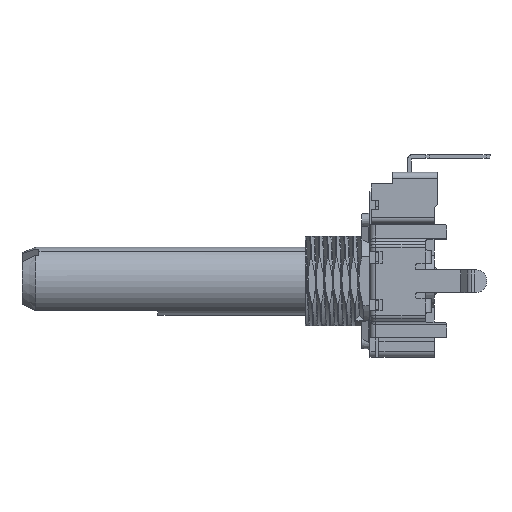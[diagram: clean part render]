
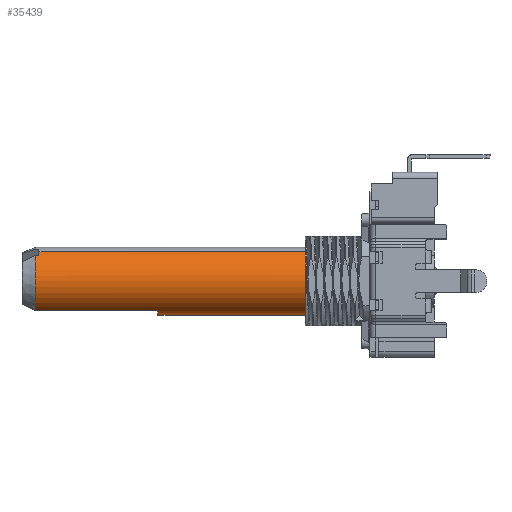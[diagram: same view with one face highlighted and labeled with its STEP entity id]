
A CAD part, left-side view. The second image highlights one B-rep face of the part: STEP entity #35439.
In plain terms, the highlighted cylindrical face has radius 3 mm (diameter 6 mm), a partial arc.
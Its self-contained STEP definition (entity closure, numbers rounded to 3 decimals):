
#832 = EDGE_CURVE ( 'NONE', #11563, #25056, #25937, .T. ) ;
#1528 = CARTESIAN_POINT ( 'NONE',  ( 0.517, 32.4, -2.955 ) ) ;
#1932 = CIRCLE ( 'NONE', #17891, 3. ) ;
#3292 = CARTESIAN_POINT ( 'NONE',  ( 0., 32.6, 0. ) ) ;
#3329 = DIRECTION ( 'NONE',  ( 0., 1., 0. ) ) ;
#3619 = CARTESIAN_POINT ( 'NONE',  ( 0., 2.5, 0. ) ) ;
#3879 = VECTOR ( 'NONE', #17194, 1000. ) ;
#4009 = CIRCLE ( 'NONE', #26484, 3. ) ;
#4577 = ORIENTED_EDGE ( 'NONE', *, *, #35205, .F. ) ;
#5213 = VERTEX_POINT ( 'NONE', #15435 ) ;
#5548 = VERTEX_POINT ( 'NONE', #11081 ) ;
#5883 = CIRCLE ( 'NONE', #22445, 3. ) ;
#6104 = EDGE_CURVE ( 'NONE', #20648, #5548, #19396, .T. ) ;
#6807 = ORIENTED_EDGE ( 'NONE', *, *, #18874, .F. ) ;
#7931 = DIRECTION ( 'NONE',  ( 0., 1., 0. ) ) ;
#8346 = CARTESIAN_POINT ( 'NONE',  ( 0., 21.8, 3. ) ) ;
#9418 = LINE ( 'NONE', #28715, #11908 ) ;
#11081 = CARTESIAN_POINT ( 'NONE',  ( 0., 2.5, 3. ) ) ;
#11248 = DIRECTION ( 'NONE',  ( 0., 0., 1. ) ) ;
#11431 = ORIENTED_EDGE ( 'NONE', *, *, #24965, .F. ) ;
#11563 = VERTEX_POINT ( 'NONE', #20883 ) ;
#11908 = VECTOR ( 'NONE', #3329, 1000. ) ;
#12385 =( BOUNDED_CURVE ( )  B_SPLINE_CURVE ( 3, ( #27099, #18355, #1528, #12810 ),
 .UNSPECIFIED., .F., .F. ) 
 B_SPLINE_CURVE_WITH_KNOTS ( ( 4, 4 ),
 ( 4.528, 4.545 ),
 .UNSPECIFIED. ) 
 CURVE ( )  GEOMETRIC_REPRESENTATION_ITEM ( )  RATIONAL_B_SPLINE_CURVE ( ( 1., 1., 1., 1. ) ) 
 REPRESENTATION_ITEM ( '' )  );
#12670 = DIRECTION ( 'NONE',  ( 0., 1., 0. ) ) ;
#12810 = CARTESIAN_POINT ( 'NONE',  ( 0.5, 32.3, -2.958 ) ) ;
#13835 = DIRECTION ( 'NONE',  ( 0., -1., 0. ) ) ;
#14771 = FACE_OUTER_BOUND ( 'NONE', #35666, .T. ) ;
#15238 = VERTEX_POINT ( 'NONE', #29317 ) ;
#15435 = CARTESIAN_POINT ( 'NONE',  ( 0.5, 32.3, -2.958 ) ) ;
#15948 = AXIS2_PLACEMENT_3D ( 'NONE', #3292, #17341, #26089 ) ;
#17194 = DIRECTION ( 'NONE',  ( 0., -1., 0. ) ) ;
#17341 = DIRECTION ( 'NONE',  ( 0., -1., 0. ) ) ;
#17470 = DIRECTION ( 'NONE',  ( 0., 0., 1. ) ) ;
#17541 = VECTOR ( 'NONE', #13835, 1000. ) ;
#17891 = AXIS2_PLACEMENT_3D ( 'NONE', #27563, #30510, #29965 ) ;
#18355 = CARTESIAN_POINT ( 'NONE',  ( 0.533, 32.5, -2.952 ) ) ;
#18699 = ORIENTED_EDGE ( 'NONE', *, *, #31121, .T. ) ;
#18874 = EDGE_CURVE ( 'NONE', #15238, #19002, #5883, .T. ) ;
#19002 = VERTEX_POINT ( 'NONE', #36179 ) ;
#19103 = CARTESIAN_POINT ( 'NONE',  ( 2.598, 21.8, 1.5 ) ) ;
#19227 = CARTESIAN_POINT ( 'NONE',  ( 0., 21.8, 0. ) ) ;
#19396 = LINE ( 'NONE', #27949, #17541 ) ;
#20617 = VERTEX_POINT ( 'NONE', #19103 ) ;
#20648 = VERTEX_POINT ( 'NONE', #8346 ) ;
#20883 = CARTESIAN_POINT ( 'NONE',  ( 0., 32.3, -3. ) ) ;
#22047 = EDGE_CURVE ( 'NONE', #20617, #15238, #9418, .T. ) ;
#22445 = AXIS2_PLACEMENT_3D ( 'NONE', #29919, #27336, #24552 ) ;
#22944 = ORIENTED_EDGE ( 'NONE', *, *, #6104, .T. ) ;
#24218 = CIRCLE ( 'NONE', #28943, 3. ) ;
#24552 = DIRECTION ( 'NONE',  ( 0., 0., 1. ) ) ;
#24965 = EDGE_CURVE ( 'NONE', #5213, #11563, #1932, .T. ) ;
#24968 = CARTESIAN_POINT ( 'NONE',  ( 0., 2.5, -3. ) ) ;
#25056 = VERTEX_POINT ( 'NONE', #24968 ) ;
#25937 = LINE ( 'NONE', #30809, #3879 ) ;
#26089 = DIRECTION ( 'NONE',  ( 0., 0., -1. ) ) ;
#26484 = AXIS2_PLACEMENT_3D ( 'NONE', #3619, #12670, #17470 ) ;
#27099 = CARTESIAN_POINT ( 'NONE',  ( 0.55, 32.6, -2.949 ) ) ;
#27336 = DIRECTION ( 'NONE',  ( 0., 1., 0. ) ) ;
#27563 = CARTESIAN_POINT ( 'NONE',  ( 0., 32.3, 0. ) ) ;
#27949 = CARTESIAN_POINT ( 'NONE',  ( 0., 32.6, 3. ) ) ;
#28594 = ORIENTED_EDGE ( 'NONE', *, *, #34686, .F. ) ;
#28681 = ORIENTED_EDGE ( 'NONE', *, *, #22047, .F. ) ;
#28715 = CARTESIAN_POINT ( 'NONE',  ( 2.598, 21.8, 1.5 ) ) ;
#28943 = AXIS2_PLACEMENT_3D ( 'NONE', #19227, #7931, #11248 ) ;
#29048 = CYLINDRICAL_SURFACE ( 'NONE', #15948, 3. ) ;
#29317 = CARTESIAN_POINT ( 'NONE',  ( 2.598, 32.6, 1.5 ) ) ;
#29868 = ORIENTED_EDGE ( 'NONE', *, *, #832, .F. ) ;
#29919 = CARTESIAN_POINT ( 'NONE',  ( 0., 32.6, 0. ) ) ;
#29965 = DIRECTION ( 'NONE',  ( 0., 0., -1. ) ) ;
#30510 = DIRECTION ( 'NONE',  ( 0., 1., 0. ) ) ;
#30809 = CARTESIAN_POINT ( 'NONE',  ( 0., 32.6, -3. ) ) ;
#31121 = EDGE_CURVE ( 'NONE', #5548, #25056, #4009, .T. ) ;
#34686 = EDGE_CURVE ( 'NONE', #19002, #5213, #12385, .T. ) ;
#35205 = EDGE_CURVE ( 'NONE', #20648, #20617, #24218, .T. ) ;
#35439 = ADVANCED_FACE ( 'NONE', ( #14771 ), #29048, .T. ) ;
#35666 = EDGE_LOOP ( 'NONE', ( #4577, #22944, #18699, #29868, #11431, #28594, #6807, #28681 ) ) ;
#36179 = CARTESIAN_POINT ( 'NONE',  ( 0.55, 32.6, -2.949 ) ) ;
